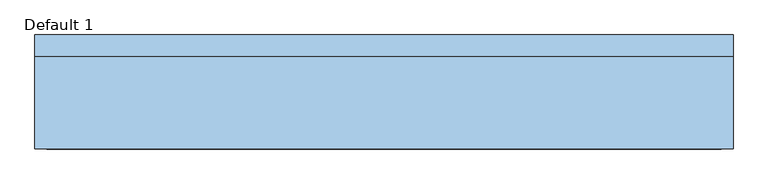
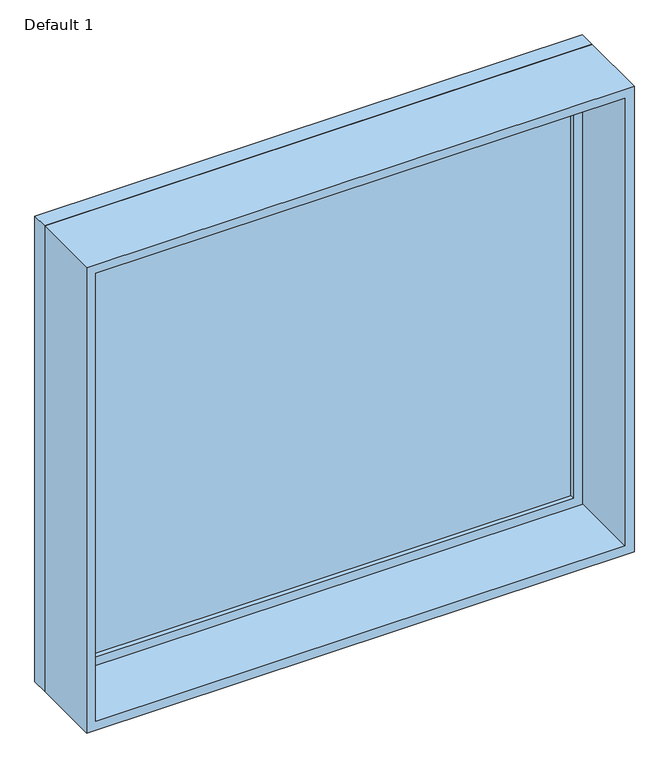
"""IFC4 building model written with IfcOpenShell, lengths in millimetres: window geometry, Planitar-Fixed : Default 1."""

from ifc_helpers import new_model, si_unit, frame, origin, place, context, project, spatial, polyline, outline, extrude, source, transform, mapped, element, save


def default_1_ae3d604a(model_context):
    return source(origin(), model_context, "Body", "SweptSolid", [
        extrude(outline(polyline([(2571.8, -914.45), (933.4, -914.45), (933.4, 914.45), (2571.8, 914.45), (2571.8, -914.45)]), holes=[polyline([(2527.8, -870.45), (2527.8, 870.45), (977.4, 870.45), (977.4, -870.45), (2527.8, -870.45)])]), frame((0.0, 108.7, 0.0), z_axis=(0.0, 1.0, 0.0), x_axis=(0.0, 0.0, 1.0)), (0.0, 0.0, 1.0), 44.0),
        extrude(outline(polyline([(2590.8, -933.45), (914.4, -933.45), (914.4, 933.45), (2590.8, 933.45), (2590.8, -933.45)]), holes=[polyline([(2571.8, -914.45), (2571.8, 914.45), (933.4, 914.45), (933.4, -914.45), (2571.8, -914.45)])]), frame((0.0, 108.7, 0.0), z_axis=(0.0, 1.0, 0.0), x_axis=(0.0, 0.0, 1.0)), (0.0, 0.0, 1.0), 56.7),
        extrude(outline(polyline([(2590.8, -933.45), (914.4, -933.45), (914.4, 933.45), (2590.8, 933.45), (2590.8, -933.45)]), holes=[polyline([(2558.8, -901.45), (2558.8, 901.45), (946.4, 901.45), (946.4, -901.45), (2558.8, -901.45)])]), frame((0.0, -139.4, 0.0), z_axis=(0.0, 1.0, 0.0), x_axis=(0.0, 0.0, 1.0)), (0.0, 0.0, 1.0), 248.1),
        extrude(outline(polyline([(-870.45, 136.7), (870.45, 136.7), (870.45, 124.7), (-870.45, 124.7), (-870.45, 136.7)])), frame((0.0, 0.0, 977.4), z_axis=(0.0, 0.0, 1.0), x_axis=(1.0, 0.0, 0.0)), (0.0, 0.0, 1.0), 1550.4),
    ])


if __name__ == "__main__":
    model = new_model("IFC4")
    model_context = context("Model", 3, world=origin())
    ifc_project = project(units=[si_unit("LENGTHUNIT", "METRE", prefix="MILLI")], contexts=[model_context])
    site = spatial("IfcSite", under=ifc_project)
    building = spatial("IfcBuilding", under=site)
    placement = place(None, origin())
    default_1_shape = default_1_ae3d604a(model_context)
    element("IfcWindow", 1, ObjectType="Planitar-Fixed : Default 1", at=placement, inside=building, context=model_context, shape_type="MappedRepresentation", body=[
        mapped(default_1_shape, transform((0.0, 0.0, 0.0), x_axis=(1.0, 0.0, 0.0), y_axis=(0.0, 1.0, 0.0), z_axis=(0.0, 0.0, 1.0))),
    ])
    save(model, "model.ifc")
